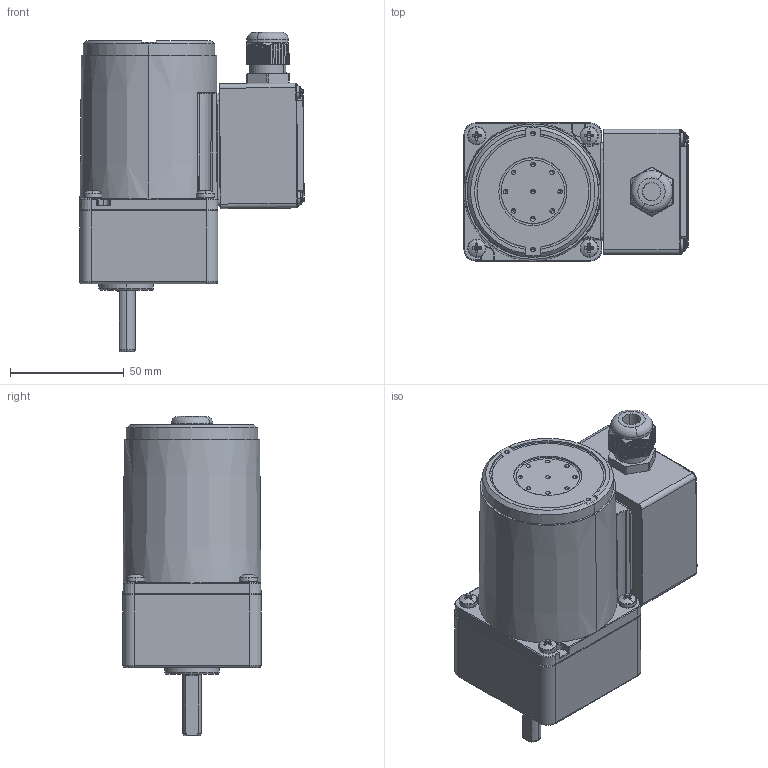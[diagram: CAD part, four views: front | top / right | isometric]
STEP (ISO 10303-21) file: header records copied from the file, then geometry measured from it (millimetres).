
FILE_DESCRIPTION (( 'STEP AP203' ), '1' );
FILE_NAME ('2IK6GN-CT(2GN3K-18K).STEP', '2023-08-07T07:47:38', ( 'Windows User' ), ( 'P R C' ), 'SwSTEP 2.0', 'SolidWorks 2019', '' );
FILE_SCHEMA (( 'CONFIG_CONTROL_DESIGN' ));
Length unit declared in the file: millimetre
Products named in the file (11): ^___2IK6GN-CT(2GN3K-18K)(2)_2IK6GN-CT(2GN3K-18K); ^_2IK6GN-CT(2GN3K-18K)(2)_2IK6GN-CT(2GN3K-18K); ^__2IK6GN-CT(2GN3K-18K)(2)_2IK6GN-CT(2GN3K-18K); ^2IK6GN-CT(2GN3K-18K)(2)_2IK6GN-CT(2GN3K-18K); 2IK6GN-CT(2GN3K-18K); 2GN3K-18K^2IK6GN-CT(2GN3K-18K)(2)_2IK6GN-CT(2GN3K-18K); 葩璃 (2) ^___2IK6GN-CT(2GN3K-18K)(2)_2IK6GN-CT(2GN3K-18K); 葩璃 (3) ^___2IK6GN-CT(2GN3K-18K)(2)_2IK6GN-CT(2GN3K-18K); 2IK6GN-CT(2GN3K-18K)(2)^2IK6GN-CT(2GN3K-18K)
Assembly tree (16 placements, depth 6):
  2IK6GN-CT(2GN3K-18K)
    2IK6GN-CT(2GN3K-18K)(2)^2IK6GN-CT(2GN3K-18K)
      ^2IK6GN-CT(2GN3K-18K)(2)_2IK6GN-CT(2GN3K-18K)
        ^_2IK6GN-CT(2GN3K-18K)(2)_2IK6GN-CT(2GN3K-18K)
          ^__2IK6GN-CT(2GN3K-18K)(2)_2IK6GN-CT(2GN3K-18K)
            ^___2IK6GN-CT(2GN3K-18K)(2)_2IK6GN-CT(2GN3K-18K)
            葩璃 (2) ^___2IK6GN-CT(2GN3K-18K)(2)_2IK6GN-CT(2GN3K-18K)
            葩璃 (3) ^___2IK6GN-CT(2GN3K-18K)(2)_2IK6GN-CT(2GN3K-18K)  x4
          ^__2IK6GN-CT(2GN3K-18K)(2)_2IK6GN-CT(2GN3K-18K)
        ^_2IK6GN-CT(2GN3K-18K)(2)_2IK6GN-CT(2GN3K-18K)  x4
      2GN3K-18K^2IK6GN-CT(2GN3K-18K)(2)_2IK6GN-CT(2GN3K-18K)
Bounding box: 98.76 x 60.8 x 140.65 mm (x, y, z)
Volume: 409084.8 mm3; surface area: 69812.5 mm2
Topology: 12 solids, 13 shells, 1815 faces, 4671 edges, 2865 vertices
Faces by surface type: cone 725, cylinder 604, plane 296, torus 103, bspline 53, sphere 34
Entity records: 34223 total; most frequent: CARTESIAN_POINT 10557, DIRECTION 4838, ORIENTED_EDGE 4706, EDGE_CURVE 2353, AXIS2_PLACEMENT_3D 2009, VERTEX_POINT 1458, CIRCLE 1097, EDGE_LOOP 993
